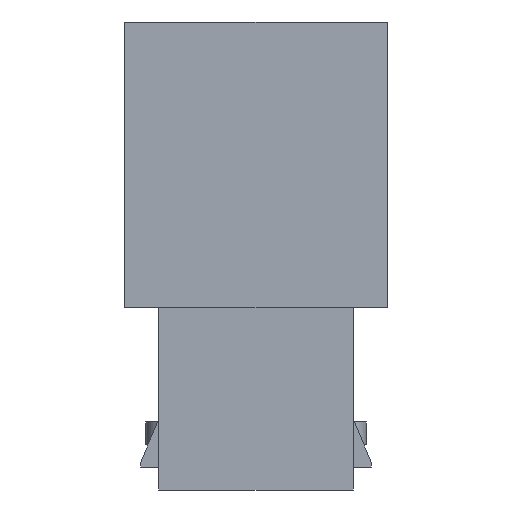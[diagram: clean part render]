
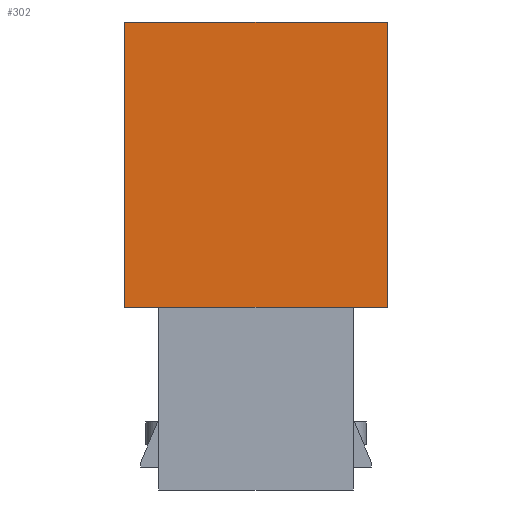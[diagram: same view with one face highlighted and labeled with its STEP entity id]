
A CAD part, front view. The second image highlights one B-rep face of the part: STEP entity #302.
In plain terms, the highlighted planar face has unit normal (0, -1, 0).
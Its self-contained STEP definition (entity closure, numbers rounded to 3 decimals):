
#302=ADVANCED_FACE('',(#530),#3078,.T.);
#530=FACE_OUTER_BOUND('',#786,.T.);
#786=EDGE_LOOP('',(#1650,#1651,#1652,#1653));
#1650=ORIENTED_EDGE('',*,*,#2113,.F.);
#1651=ORIENTED_EDGE('',*,*,#2110,.F.);
#1652=ORIENTED_EDGE('',*,*,#2107,.F.);
#1653=ORIENTED_EDGE('',*,*,#2104,.F.);
#2104=EDGE_CURVE('',#2844,#2845,#2548,.T.);
#2107=EDGE_CURVE('',#2845,#2847,#2551,.T.);
#2110=EDGE_CURVE('',#2847,#2849,#2554,.T.);
#2113=EDGE_CURVE('',#2849,#2844,#2557,.T.);
#2548=B_SPLINE_CURVE_WITH_KNOTS('',1,(#5670,#5671),.UNSPECIFIED.,.F.,.F.,
(2,2),(-25.,0.),.UNSPECIFIED.);
#2551=B_SPLINE_CURVE_WITH_KNOTS('',1,(#5676,#5677),.UNSPECIFIED.,.F.,.F.,
(2,2),(-23.,0.),.UNSPECIFIED.);
#2554=B_SPLINE_CURVE_WITH_KNOTS('',1,(#5682,#5683),.UNSPECIFIED.,.F.,.F.,
(2,2),(-25.,0.),.UNSPECIFIED.);
#2557=B_SPLINE_CURVE_WITH_KNOTS('',1,(#5688,#5689),.UNSPECIFIED.,.F.,.F.,
(2,2),(-23.,0.),.UNSPECIFIED.);
#2844=VERTEX_POINT('',#5660);
#2845=VERTEX_POINT('',#5661);
#2847=VERTEX_POINT('',#5663);
#2849=VERTEX_POINT('',#5665);
#3078=PLANE('',#3370);
#3370=AXIS2_PLACEMENT_3D('',#5656,#3577,$);
#3577=DIRECTION('',(0.,-1.,0.));
#5656=CARTESIAN_POINT('',(2680.653,1125.394,62.387));
#5660=CARTESIAN_POINT('',(2657.643,1125.394,62.397));
#5661=CARTESIAN_POINT('',(2657.643,1125.394,87.397));
#5663=CARTESIAN_POINT('',(2680.643,1125.394,87.397));
#5665=CARTESIAN_POINT('',(2680.643,1125.394,62.397));
#5670=CARTESIAN_POINT('',(2657.643,1125.394,62.397));
#5671=CARTESIAN_POINT('',(2657.643,1125.394,87.397));
#5676=CARTESIAN_POINT('',(2657.643,1125.394,87.397));
#5677=CARTESIAN_POINT('',(2680.643,1125.394,87.397));
#5682=CARTESIAN_POINT('',(2680.643,1125.394,87.397));
#5683=CARTESIAN_POINT('',(2680.643,1125.394,62.397));
#5688=CARTESIAN_POINT('',(2680.643,1125.394,62.397));
#5689=CARTESIAN_POINT('',(2657.643,1125.394,62.397));
